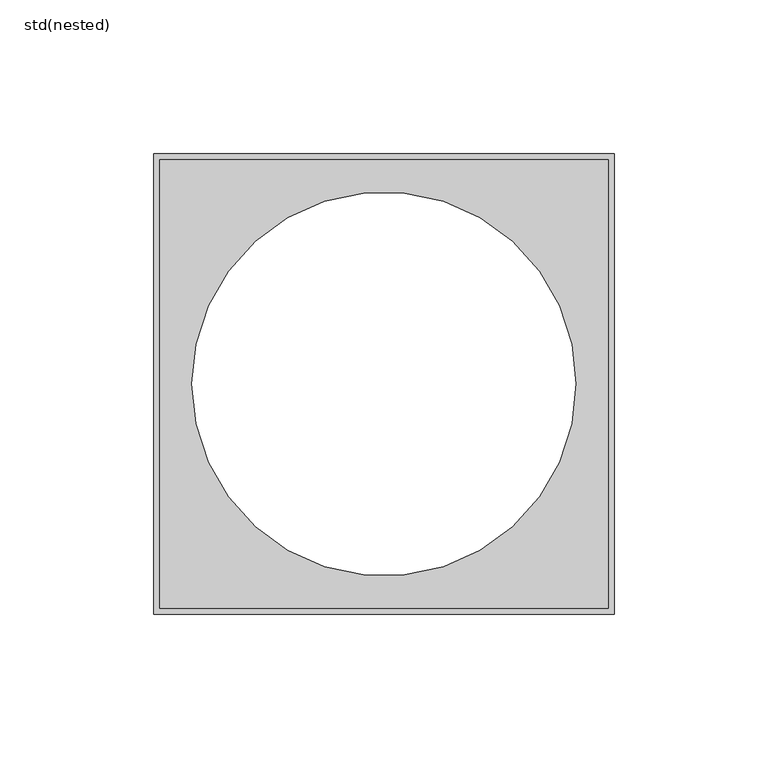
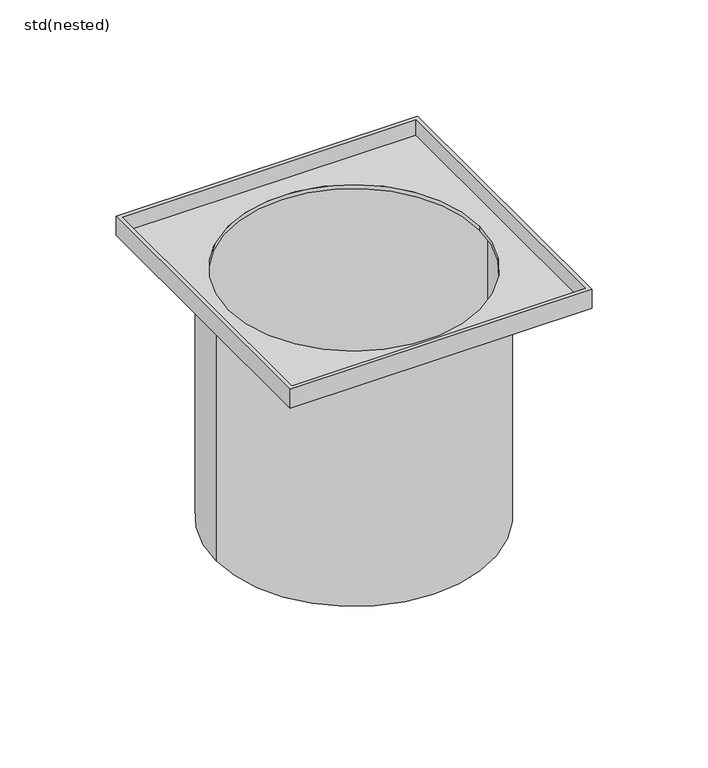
"""IFC4 building model written with IfcOpenShell, lengths in millimetres: sanitary terminal geometry, ZZZ_do not use_PF_ST_UN_grating holder_ACO : std(nested)."""

from ifc_helpers import new_model, si_unit, frame, origin, place, context, project, spatial, polyline, circle_curve, source, transform, mapped, element, save
from ifc_brep_helpers import plane_surface, cylinder_surface, revolved_surface, advanced_brep


def std_nested_fcf9ab96(model_context):
    return source(origin(), model_context, "Body", "AdvancedBrep", [
        advanced_brep(
        [(75.0, 75.0, -10.0), (75.0, 75.0, 0.0), (75.0, -75.0, 0.0), (75.0, -75.0, -10.0), (73.0, 73.0, 0.0), (73.0, 73.0, -8.0), (73.0, -73.0, -8.0), (73.0, -73.0, 0.0), (-75.0, -75.0, 0.0), (-75.0, -75.0, -10.0), (-73.0, -73.0, -8.0), (-73.0, -73.0, 0.0), (-75.0, 75.0, 0.0), (-75.0, 75.0, -10.0), (-73.0, 73.0, -8.0), (-73.0, 73.0, 0.0), (62.5, 0.0, -10.0), (-62.5, 0.0, -10.0), (-62.5, 0.0, -8.0), (62.5, 0.0, -8.0)],
        [
            (0, 1),
            (1, 2),
            (2, 3),
            (3, 0),
            (4, 5),
            (5, 6),
            (6, 7),
            (7, 4),
            (2, 8),
            (8, 9),
            (9, 3),
            (6, 10),
            (10, 11),
            (11, 7),
            (8, 12),
            (12, 13),
            (13, 9),
            (10, 14),
            (14, 15),
            (15, 11),
            (1, 12),
            (15, 4),
            (0, 13),
            (16, 17, circle_curve(frame((0.0, 0.0, -10.0), z_axis=(0.0, 0.0, 1.0), x_axis=(-1.0, 0.0, 0.0)), 62.5)),
            (17, 16, circle_curve(frame((0.0, 0.0, -10.0), z_axis=(0.0, 0.0, 1.0), x_axis=(-1.0, 0.0, 0.0)), 62.5)),
            (5, 14),
            (18, 19, circle_curve(frame((0.0, 0.0, -8.0), z_axis=(0.0, 0.0, -1.0), x_axis=(-1.0, 0.0, 0.0)), 62.5)),
            (19, 18, circle_curve(frame((0.0, 0.0, -8.0), z_axis=(0.0, 0.0, -1.0), x_axis=(-1.0, 0.0, 0.0)), 62.5)),
            (16, 19),
            (18, 17),
        ],
        [
            plane_surface(frame((75.0, 75.0, 0.0), z_axis=(1.0, 0.0, 0.0), x_axis=(0.0, -1.0, 0.0))),
            plane_surface(frame((73.0, 73.0, -8.0), z_axis=(-1.0, 0.0, 0.0), x_axis=(0.0, -1.0, 0.0))),
            plane_surface(frame((75.0, -75.0, 0.0), z_axis=(0.0, -1.0, 0.0), x_axis=(-1.0, 0.0, 0.0))),
            plane_surface(frame((73.0, -73.0, -8.0), z_axis=(0.0, 1.0, 0.0), x_axis=(-1.0, 0.0, 0.0))),
            plane_surface(frame((-75.0, -75.0, 0.0), z_axis=(-1.0, 0.0, 0.0), x_axis=(0.0, 1.0, 0.0))),
            plane_surface(frame((-73.0, -73.0, -8.0), z_axis=(1.0, 0.0, 0.0), x_axis=(0.0, 1.0, 0.0))),
            plane_surface(frame((-73.0, 73.0, 0.0), z_axis=(0.0, 0.0, 1.0), x_axis=(1.0, 0.0, 0.0))),
            plane_surface(frame((-75.0, 75.0, 0.0), z_axis=(0.0, 1.0, 0.0), x_axis=(1.0, 0.0, 0.0))),
            plane_surface(frame((-75.0, 75.0, -10.0), z_axis=(0.0, 0.0, -1.0), x_axis=(1.0, 0.0, 0.0))),
            plane_surface(frame((0.0, 0.0, -8.0), z_axis=(0.0, 0.0, 1.0), x_axis=(1.0, 0.0, 0.0))),
            plane_surface(frame((-73.0, 73.0, -8.0), z_axis=(0.0, -1.0, 0.0), x_axis=(1.0, 0.0, 0.0))),
            revolved_surface(polyline([(-62.5, 0.0, -10.0), (-62.5, 0.0, -8.0)]), (0.0, 0.0, 97.0925582), (0.0, 0.0, -1.0)),
        ],
        [
            (0, [[1, 2, 3, 4]]),
            (1, [[5, 6, 7, 8]]),
            (2, [[-3, 9, 10, 11]]),
            (3, [[-7, 12, 13, 14]]),
            (4, [[-10, 15, 16, 17]]),
            (5, [[-13, 18, 19, 20]]),
            (6, [[-2, 21, -15, -9], [-8, -14, -20, 22]]),
            (7, [[-1, 23, -16, -21]]),
            (8, [[-4, -11, -17, -23], [24, 25]]),
            (9, [[-6, 26, -18, -12], [27, 28]]),
            (10, [[-5, -22, -19, -26]]),
            (11, [[29, -27, 30, -24]]),
            (11, [[-29, -25, -30, -28]]),
        ],
    ),
        advanced_brep(
        [(68.5, 0.0, -138.0), (-68.5, 0.0, -138.0), (-68.5, 0.0, -10.0), (68.5, 0.0, -10.0), (66.5, 0.0, -138.0), (-66.5, 0.0, -138.0), (66.5, 0.0, -10.0), (-66.5, 0.0, -10.0)],
        [
            (0, 1, circle_curve(frame((0.0, 0.0, -138.0), z_axis=(0.0, 0.0, 1.0), x_axis=(-1.0, 0.0, 0.0)), 68.5)),
            (1, 2),
            (2, 3, circle_curve(frame((0.0, 0.0, -10.0), z_axis=(0.0, 0.0, -1.0), x_axis=(-1.0, 0.0, 0.0)), 68.5)),
            (3, 0),
            (1, 0, circle_curve(frame((0.0, 0.0, -138.0), z_axis=(0.0, 0.0, 1.0), x_axis=(-1.0, 0.0, 0.0)), 68.5)),
            (3, 2, circle_curve(frame((0.0, 0.0, -10.0), z_axis=(0.0, 0.0, -1.0), x_axis=(-1.0, 0.0, 0.0)), 68.5)),
            (4, 5, circle_curve(frame((0.0, 0.0, -138.0), z_axis=(0.0, 0.0, 1.0), x_axis=(-1.0, 0.0, 0.0)), 66.5)),
            (5, 1),
            (0, 4),
            (5, 4, circle_curve(frame((0.0, 0.0, -138.0), z_axis=(0.0, 0.0, 1.0), x_axis=(-1.0, 0.0, 0.0)), 66.5)),
            (6, 7, circle_curve(frame((0.0, 0.0, -10.0), z_axis=(0.0, 0.0, 1.0), x_axis=(-1.0, 0.0, 0.0)), 66.5)),
            (7, 5),
            (4, 6),
            (7, 6, circle_curve(frame((0.0, 0.0, -10.0), z_axis=(0.0, 0.0, 1.0), x_axis=(-1.0, 0.0, 0.0)), 66.5)),
            (2, 7),
            (6, 3),
        ],
        [
            cylinder_surface(frame((0.0, 0.0, 40.5), z_axis=(0.0, 0.0, -1.0), x_axis=(-1.0, 0.0, 0.0)), 68.5),
            plane_surface(frame((0.0, 0.0, -138.0), z_axis=(0.0, 0.0, -1.0), x_axis=(-1.0, 0.0, 0.0))),
            revolved_surface(polyline([(-66.5, 0.0, -138.0), (-66.5, 0.0, -10.0)]), (0.0, 0.0, 40.5), (0.0, 0.0, -1.0)),
            plane_surface(frame((0.0, 0.0, -10.0), z_axis=(0.0, 0.0, 1.0), x_axis=(-1.0, 0.0, 0.0))),
        ],
        [
            (0, [[1, 2, 3, 4]]),
            (0, [[5, -4, 6, -2]]),
            (1, [[7, 8, -1, 9]]),
            (1, [[10, -9, -5, -8]]),
            (2, [[11, 12, -7, 13]]),
            (2, [[14, -13, -10, -12]]),
            (3, [[-3, 15, -11, 16]]),
            (3, [[-6, -16, -14, -15]]),
        ],
    ),
    ])


if __name__ == "__main__":
    model = new_model("IFC4")
    model_context = context("Model", 3, world=origin())
    ifc_project = project(units=[si_unit("LENGTHUNIT", "METRE", prefix="MILLI")], contexts=[model_context])
    site = spatial("IfcSite", under=ifc_project)
    building = spatial("IfcBuilding", under=site)
    placement = place(None, origin())
    std_nested_shape = std_nested_fcf9ab96(model_context)
    element("IfcSanitaryTerminal", 1, ObjectType="ZZZ_do not use_PF_ST_UN_grating holder_ACO : std(nested)", at=placement, inside=building, context=model_context, shape_type="MappedRepresentation", body=[
        mapped(std_nested_shape, transform((0.0, 0.0, 0.0), x_axis=(1.0, 0.0, 0.0), y_axis=(0.0, 1.0, 0.0), z_axis=(0.0, 0.0, 1.0))),
    ])
    save(model, "model.ifc")
